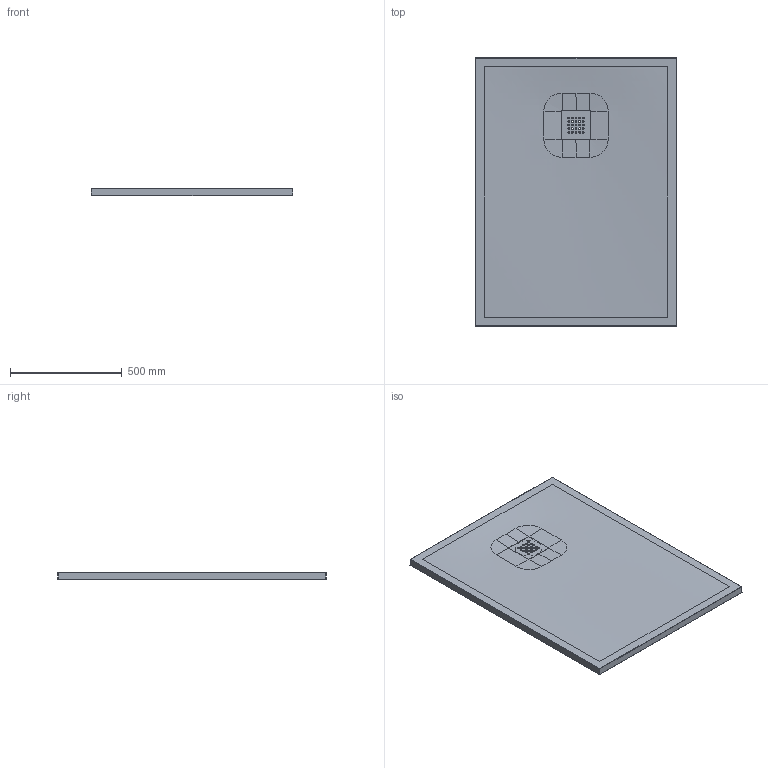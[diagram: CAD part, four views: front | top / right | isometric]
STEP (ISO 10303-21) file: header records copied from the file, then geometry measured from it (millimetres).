
FILE_DESCRIPTION(/* description */ (''),/* implementation_level */ '2;1');
FILE_NAME(/* name */ '1200X900',/* time_stamp */ '2024-04-17T11:29:20+02:00',/* author */ (''),/* organization */ (''),/* preprocessor_version */ 'ST-DEVELOPER v16.5',/* originating_system */ 'Rhino 7.36',/* authorisation */ '');
FILE_SCHEMA (('CONFIG_CONTROL_DESIGN'));
Length unit declared in the file: millimetre
Products named in the file (1): Document
Bounding box: 899.98 x 1199.98 x 33 mm (x, y, z)
Volume: 31015033.3 mm3; surface area: 2317590.2 mm2
Topology: 2 solids, 2 shells, 116 faces, 308 edges, 190 vertices
Faces by surface type: cylinder 70, bspline 27, plane 19
Entity records: 16607 total; most frequent: CARTESIAN_POINT 14583, ORIENTED_EDGE 600, EDGE_CURVE 300, VERTEX_POINT 190, EDGE_LOOP 170, ADVANCED_FACE 116, FACE_OUTER_BOUND 116, B_SPLINE_CURVE_WITH_KNOTS 104
